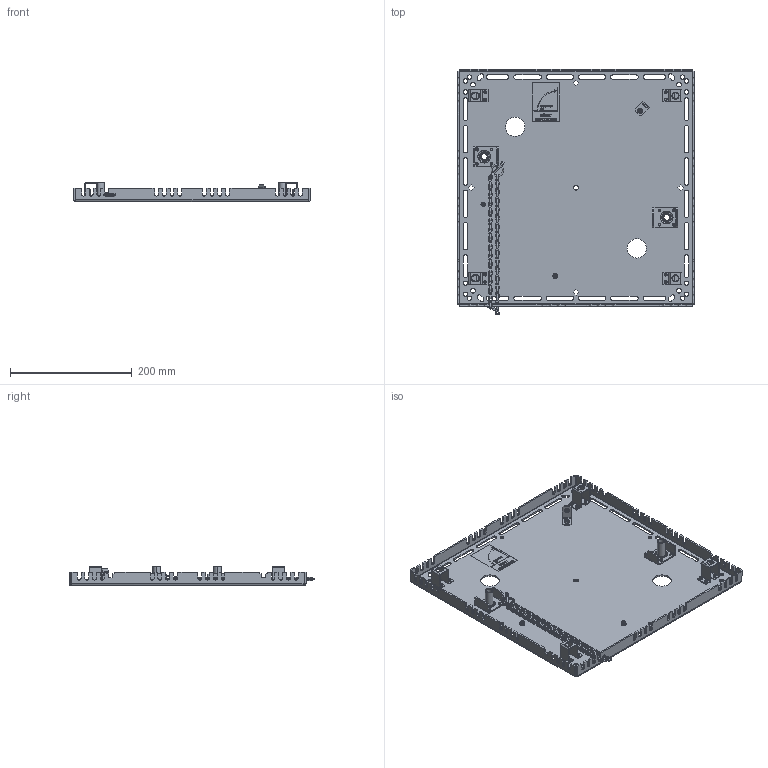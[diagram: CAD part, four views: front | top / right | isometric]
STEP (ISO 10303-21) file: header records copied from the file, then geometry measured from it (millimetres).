
FILE_DESCRIPTION (( 'STEP AP214' ), '1' );
FILE_NAME ('AD 22 Mount.STEP', '2012-09-11T16:58:09', ( 'landesk' ), ( 'Microsoft' ), 'SwSTEP 2.0', 'SolidWorks 2012', '' );
FILE_SCHEMA (( 'AUTOMOTIVE_DESIGN' ));
Length unit declared in the file: millimetre
Products named in the file (21): 090-1464; 526-0431; 572-3416; 572-3415; AD 22 Mount; 572-3414; PEM TPS-4mm-8; RING, RET, EXT, MCMASTER 98430A138_98430A138; BUSHING, FLANGED, .375id, .5od, .1.25lg, .69fod, .094ft; 572-3677; PEM FH-M4-8 ZI--N; 105-0130; 209-0050_M4 NYLOC; 572-2949; PEM S-M4-2 ZI--N; 209-0049_93825A120; RIVET - 125 C''SINK; 437-2200
Assembly tree (48 placements, depth 4):
  AD 22 Mount
    437-2200
      572-3414
        572-3414
        PEM TPS-4mm-8  x4
        PEM FH-M4-8 ZI--N  x3
      572-3677  x2
      572-3415  x2
      572-3416  x2
        BUSHING, FLANGED, .375id, .5od, .1.25lg, .69fod, .094ft
        RING, RET, EXT, MCMASTER 98430A138_98430A138
        572-3416
      RIVET - 125 C''SINK  x20
    572-2949
      572-2949
      PEM S-M4-2 ZI--N
    209-0049_93825A120
    209-0050_M4 NYLOC  x2
    105-0130
    526-0431
    090-1464
Bounding box: 389.16 x 403.54 x 31.99 mm (x, y, z)
Volume: 457564.5 mm3; surface area: 402877.6 mm2
Topology: 77 solids, 77 shells, 4267 faces, 11503 edges, 7473 vertices
Faces by surface type: plane 2153, cylinder 1604, cone 328, bspline 142, torus 40
Entity records: 123570 total; most frequent: CARTESIAN_POINT 32103, ORIENTED_EDGE 19274, DIRECTION 16380, EDGE_CURVE 9637, LINE 6428, VECTOR 6428, VERTEX_POINT 6326, AXIS2_PLACEMENT_3D 4976
